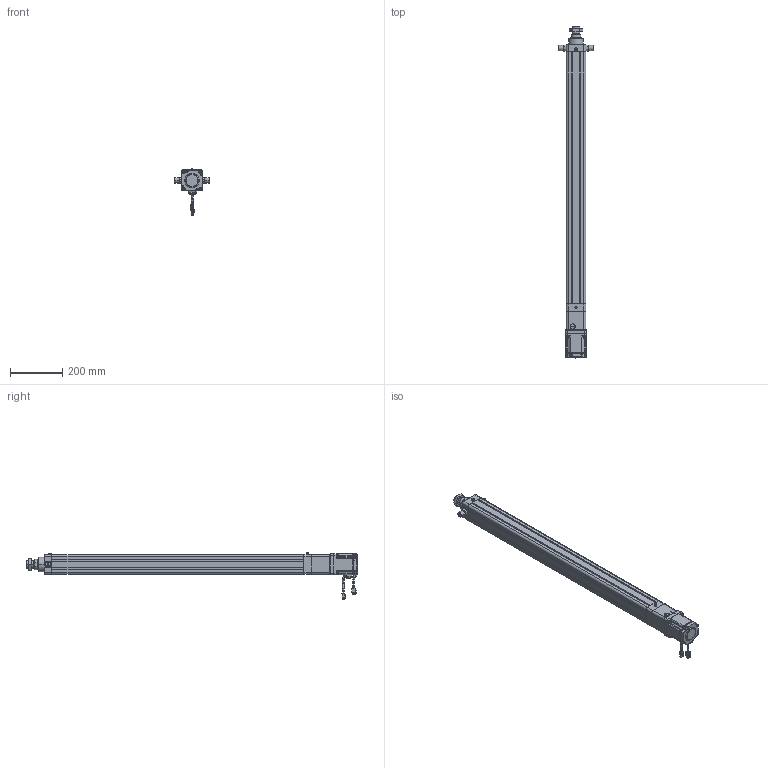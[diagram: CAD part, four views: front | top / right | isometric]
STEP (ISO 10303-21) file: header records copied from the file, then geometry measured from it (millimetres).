
FILE_DESCRIPTION((''),'2;1');
FILE_NAME('HE63-D-100-X1_ASM','2020-05-15T',('ASUS20200'),(''),'CREO PARAMETRIC BY PTC INC, 2014190','CREO PARAMETRIC BY PTC INC, 2014190','');
FILE_SCHEMA(('CONFIG_CONTROL_DESIGN'));
Length unit declared in the file: millimetre
Products named in the file (27): HE63-D-P-001-X1; HE63-D-P-002-X1; HE63-D-P-003-X1; LGLM-M8-22; HE63-D-009-X1; HE63-D-010-X1; M6X16; _MHMF082L1A2; _CABLE_MOTOR_BOTTOM_05; _CABLE_MOTOR_TOP_05; _MOTOR_CONNECTOR_2; _CABLE_BRAKE_BOTTOM_05; _CABLE_BRAKE_TOP_05; _MHMF_CONNECTOR_9_PIN_A6; MHMF082L1A2M2_1_ASM; SLM-01; YZ-M6X1; SKT-16; TD-6; JDB405030; JX6X6X25; HE63-D-P-005-X1; HE63-D-P-004-X1; HE63-D-P-008-X1; M6X25; HE63-TC; HE63-D-100-X1_ASM
Assembly tree (43 placements, depth 3):
  HE63-D-100-X1_ASM
    HE63-D-P-001-X1
    HE63-D-P-002-X1
    HE63-D-P-003-X1
    LGLM-M8-22  x8
    HE63-D-009-X1
    HE63-D-010-X1
    M6X16  x4
    MHMF082L1A2M2_1_ASM
      _MHMF082L1A2
      _CABLE_MOTOR_BOTTOM_05
      _CABLE_MOTOR_TOP_05
      _MOTOR_CONNECTOR_2
      _CABLE_BRAKE_BOTTOM_05
      _CABLE_BRAKE_TOP_05
      _MHMF_CONNECTOR_9_PIN_A6
    SLM-01
    YZ-M6X1
    SKT-16
    TD-6  x4
    JDB405030
    JX6X6X25
    HE63-D-P-005-X1
    HE63-D-P-004-X1
    HE63-D-P-008-X1
    M6X25  x4
    HE63-TC  x2
Bounding box: 135 x 1266.9 x 179.15 mm (x, y, z)
Volume: 3204481.4 mm3; surface area: 955801.2 mm2
Topology: 42 solids, 71 shells, 2530 faces, 6219 edges, 3905 vertices
Faces by surface type: plane 1057, cylinder 793, cone 507, torus 126, sphere 44, bspline 3
Entity records: 63632 total; most frequent: CARTESIAN_POINT 12067, DIRECTION 11367, ORIENTED_EDGE 10144, EDGE_CURVE 5125, AXIS2_PLACEMENT_3D 4281, VERTEX_POINT 3251, VECTOR 2805, LINE 2805
